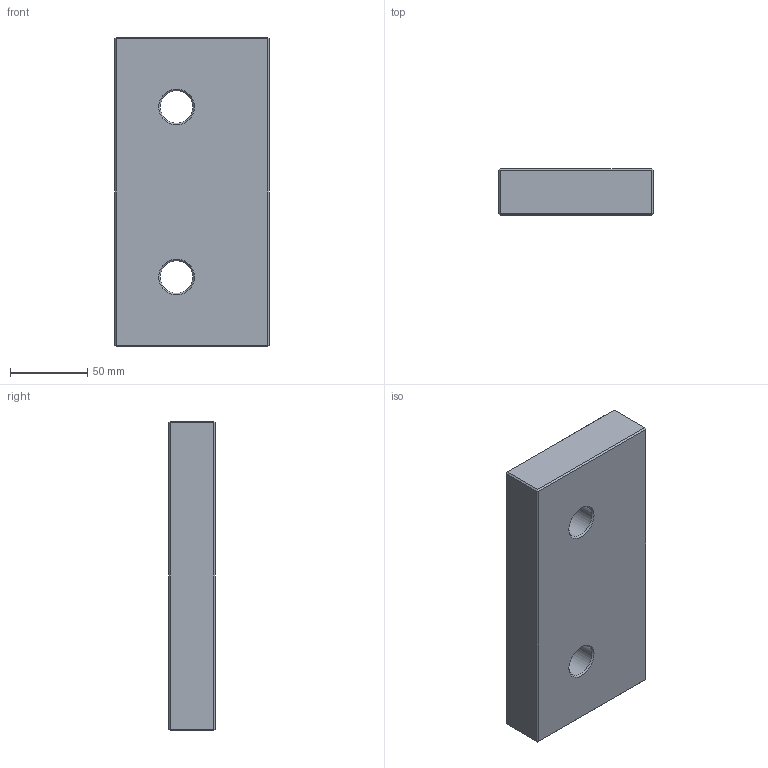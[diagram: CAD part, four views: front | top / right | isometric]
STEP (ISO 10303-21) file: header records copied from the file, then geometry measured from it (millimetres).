
FILE_DESCRIPTION(/* description */ ('Impex Ready, www.impex-ready.pl'),/* implementation_level */ '2;1');
FILE_NAME(/* name */ 'C:\Users\VIKKY\Nextcloud\SM\projekt 10 - części na stronę internetową\Pliki_3D_new\330 Płytki PG35\330 PG35_STEP\PG35.10030200.ipt.step',/* time_stamp */ '2021-12-19T18:47:11+01:00',/* author */ ('SM'),/* organization */ (''),/* preprocessor_version */ 'ST-DEVELOPER v18.1',/* originating_system */ 'Autodesk Inventor 2021',/* authorisation */ '');
FILE_SCHEMA (('AUTOMOTIVE_DESIGN { 1 0 10303 214 3 1 1 }'));
Length unit declared in the file: millimetre
Products named in the file (1): PG35.10030200
Bounding box: 100 x 30 x 200 mm (x, y, z)
Volume: 578427.6 mm3; surface area: 59647.3 mm2
Topology: 1 solids, 1 shells, 33 faces, 67 edges, 36 vertices
Faces by surface type: plane 27, cone 4, cylinder 2
Full cylindrical faces by diameter (mm): 21 x2
Entity records: 923 total; most frequent: DIRECTION 145, CARTESIAN_POINT 137, ORIENTED_EDGE 134, EDGE_CURVE 67, LINE 57, VECTOR 57, AXIS2_PLACEMENT_3D 44, EDGE_LOOP 37
